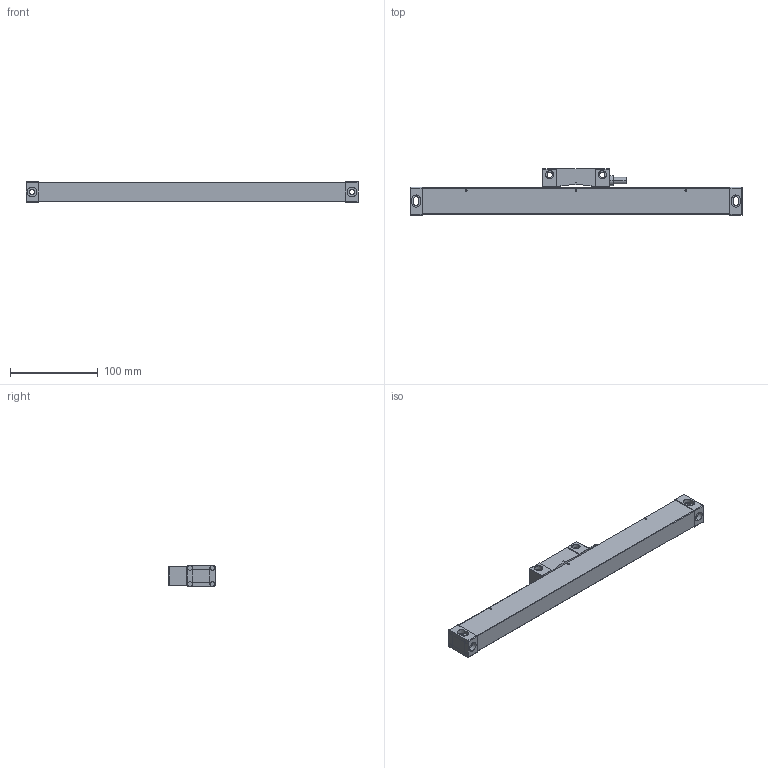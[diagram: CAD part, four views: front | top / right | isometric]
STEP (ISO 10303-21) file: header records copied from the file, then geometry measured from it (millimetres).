
FILE_DESCRIPTION (( 'STEP AP214' ), '1' );
FILE_NAME ('JCXE250-W5.step', '2023-05-18T05:24:02', ( 'Windows 蚚誧' ), ( '' ), 'SwSTEP 2.0', 'SolidWorks 2016', '' );
FILE_SCHEMA (( 'AUTOMOTIVE_DESIGN' ));
Length unit declared in the file: millimetre
Products named in the file (1): JCXE250-W5
Bounding box: 378 x 52.5 x 23.5 mm (x, y, z)
Volume: 269293.1 mm3; surface area: 53562.9 mm2
Topology: 2 solids, 2 shells, 307 faces, 756 edges, 466 vertices
Faces by surface type: cylinder 138, plane 134, torus 22, sphere 11, cone 2
Entity records: 9260 total; most frequent: CARTESIAN_POINT 1860, DIRECTION 1588, ORIENTED_EDGE 1486, EDGE_CURVE 743, AXIS2_PLACEMENT_3D 596, VERTEX_POINT 464, LINE 396, VECTOR 396
